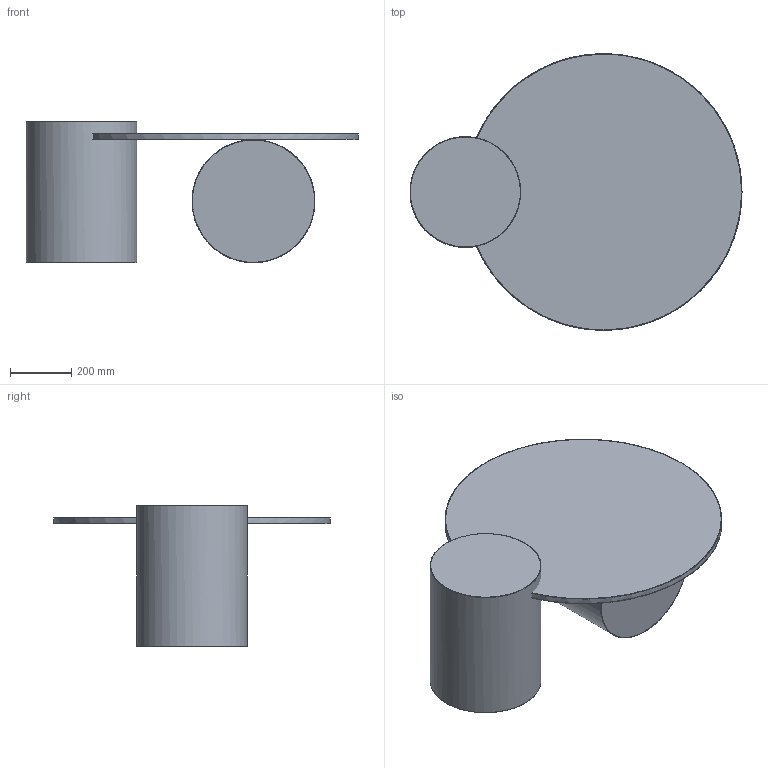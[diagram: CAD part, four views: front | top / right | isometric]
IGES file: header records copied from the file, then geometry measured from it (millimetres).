
Global section: file name: 16HC:\Users\Monika; native system: Rhinoceros ( Feb  8 2022 ); preprocessor: Trout Lake IGES 012 Feb  8 2022; date: 231001.212954; units: millimetre
Bounding box: 1079.98 x 900 x 460 mm (x, y, z)
Surface area: 2728589.1 mm2 (no closed solid volume)
Topology: 0 solids, 0 shells, 15 faces, 62 edges, 50 vertices
Faces by surface type: bspline 15
